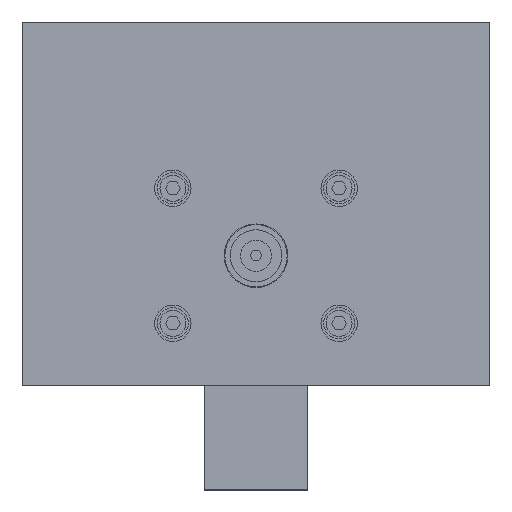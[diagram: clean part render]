
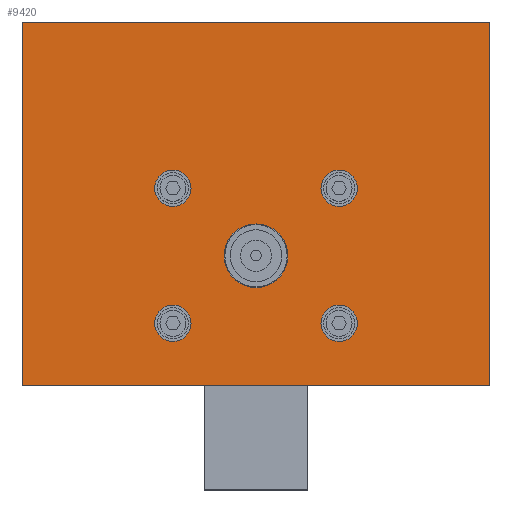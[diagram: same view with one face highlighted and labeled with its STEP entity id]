
A CAD part, top view. The second image highlights one B-rep face of the part: STEP entity #9420.
In plain terms, the highlighted planar face has unit normal (0, 0, 1).
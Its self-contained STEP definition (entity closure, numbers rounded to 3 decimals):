
#9285 = VERTEX_POINT('',#9286);
#9286 = CARTESIAN_POINT('',(-290.,-150.,361.));
#9292 = EDGE_CURVE('',#9285,#9293,#9295,.T.);
#9293 = VERTEX_POINT('',#9294);
#9294 = CARTESIAN_POINT('',(-110.,-150.,361.));
#9295 = LINE('',#9296,#9297);
#9296 = CARTESIAN_POINT('',(-600.,-150.,361.));
#9297 = VECTOR('',#9298,1.);
#9298 = DIRECTION('',(1.,0.,0.));
#9401 = VERTEX_POINT('',#9402);
#9402 = CARTESIAN_POINT('',(-110.,-10.,361.));
#9408 = EDGE_CURVE('',#9293,#9401,#9409,.T.);
#9409 = LINE('',#9410,#9411);
#9410 = CARTESIAN_POINT('',(-110.,-170.,361.));
#9411 = VECTOR('',#9412,1.);
#9412 = DIRECTION('',(0.,1.,0.));
#9420 = ADVANCED_FACE('',(#9421,#9439,#9450,#9461,#9472,#9483),#9494,.T.
  );
#9421 = FACE_BOUND('',#9422,.T.);
#9422 = EDGE_LOOP('',(#9423,#9431,#9432,#9433));
#9423 = ORIENTED_EDGE('',*,*,#9424,.F.);
#9424 = EDGE_CURVE('',#9285,#9425,#9427,.T.);
#9425 = VERTEX_POINT('',#9426);
#9426 = CARTESIAN_POINT('',(-290.,-10.,361.));
#9427 = LINE('',#9428,#9429);
#9428 = CARTESIAN_POINT('',(-290.,-170.,361.));
#9429 = VECTOR('',#9430,1.);
#9430 = DIRECTION('',(0.,1.,0.));
#9431 = ORIENTED_EDGE('',*,*,#9292,.T.);
#9432 = ORIENTED_EDGE('',*,*,#9408,.T.);
#9433 = ORIENTED_EDGE('',*,*,#9434,.T.);
#9434 = EDGE_CURVE('',#9401,#9425,#9435,.T.);
#9435 = LINE('',#9436,#9437);
#9436 = CARTESIAN_POINT('',(-445.,-10.,361.));
#9437 = VECTOR('',#9438,1.);
#9438 = DIRECTION('',(-1.,0.,0.));
#9439 = FACE_BOUND('',#9440,.T.);
#9440 = EDGE_LOOP('',(#9441));
#9441 = ORIENTED_EDGE('',*,*,#9442,.F.);
#9442 = EDGE_CURVE('',#9443,#9443,#9445,.T.);
#9443 = VERTEX_POINT('',#9444);
#9444 = CARTESIAN_POINT('',(-225.,-126.,361.));
#9445 = CIRCLE('',#9446,7.);
#9446 = AXIS2_PLACEMENT_3D('',#9447,#9448,#9449);
#9447 = CARTESIAN_POINT('',(-232.,-126.,361.));
#9448 = DIRECTION('',(0.,0.,1.));
#9449 = DIRECTION('',(1.,0.,0.));
#9450 = FACE_BOUND('',#9451,.T.);
#9451 = EDGE_LOOP('',(#9452));
#9452 = ORIENTED_EDGE('',*,*,#9453,.F.);
#9453 = EDGE_CURVE('',#9454,#9454,#9456,.T.);
#9454 = VERTEX_POINT('',#9455);
#9455 = CARTESIAN_POINT('',(-161.,-126.,361.));
#9456 = CIRCLE('',#9457,7.);
#9457 = AXIS2_PLACEMENT_3D('',#9458,#9459,#9460);
#9458 = CARTESIAN_POINT('',(-168.,-126.,361.));
#9459 = DIRECTION('',(0.,0.,1.));
#9460 = DIRECTION('',(1.,0.,0.));
#9461 = FACE_BOUND('',#9462,.T.);
#9462 = EDGE_LOOP('',(#9463));
#9463 = ORIENTED_EDGE('',*,*,#9464,.F.);
#9464 = EDGE_CURVE('',#9465,#9465,#9467,.T.);
#9465 = VERTEX_POINT('',#9466);
#9466 = CARTESIAN_POINT('',(-187.75,-100.,361.));
#9467 = CIRCLE('',#9468,12.25);
#9468 = AXIS2_PLACEMENT_3D('',#9469,#9470,#9471);
#9469 = CARTESIAN_POINT('',(-200.,-100.,361.));
#9470 = DIRECTION('',(0.,0.,1.));
#9471 = DIRECTION('',(1.,0.,0.));
#9472 = FACE_BOUND('',#9473,.T.);
#9473 = EDGE_LOOP('',(#9474));
#9474 = ORIENTED_EDGE('',*,*,#9475,.F.);
#9475 = EDGE_CURVE('',#9476,#9476,#9478,.T.);
#9476 = VERTEX_POINT('',#9477);
#9477 = CARTESIAN_POINT('',(-225.,-74.,361.));
#9478 = CIRCLE('',#9479,7.);
#9479 = AXIS2_PLACEMENT_3D('',#9480,#9481,#9482);
#9480 = CARTESIAN_POINT('',(-232.,-74.,361.));
#9481 = DIRECTION('',(0.,0.,1.));
#9482 = DIRECTION('',(1.,0.,0.));
#9483 = FACE_BOUND('',#9484,.T.);
#9484 = EDGE_LOOP('',(#9485));
#9485 = ORIENTED_EDGE('',*,*,#9486,.F.);
#9486 = EDGE_CURVE('',#9487,#9487,#9489,.T.);
#9487 = VERTEX_POINT('',#9488);
#9488 = CARTESIAN_POINT('',(-161.,-74.,361.));
#9489 = CIRCLE('',#9490,7.);
#9490 = AXIS2_PLACEMENT_3D('',#9491,#9492,#9493);
#9491 = CARTESIAN_POINT('',(-168.,-74.,361.));
#9492 = DIRECTION('',(0.,0.,1.));
#9493 = DIRECTION('',(1.,0.,0.));
#9494 = PLANE('',#9495);
#9495 = AXIS2_PLACEMENT_3D('',#9496,#9497,#9498);
#9496 = CARTESIAN_POINT('',(-600.,-150.,361.));
#9497 = DIRECTION('',(0.,0.,1.));
#9498 = DIRECTION('',(1.,0.,0.));
